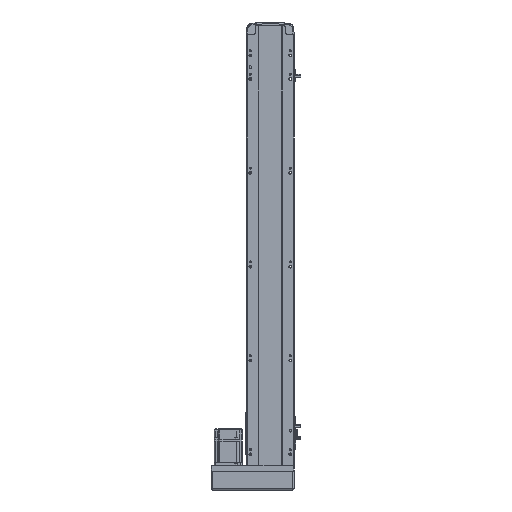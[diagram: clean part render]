
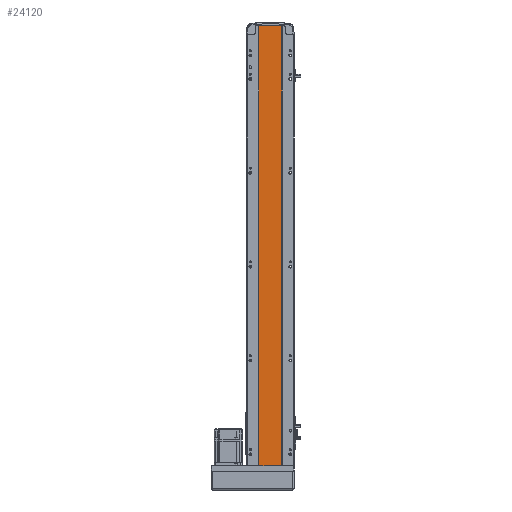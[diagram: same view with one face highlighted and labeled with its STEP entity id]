
A CAD part, front view. The second image highlights one B-rep face of the part: STEP entity #24120.
In plain terms, the highlighted planar face has unit normal (0, -1, 0).
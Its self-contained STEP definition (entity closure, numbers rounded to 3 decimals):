
#4185 = DIRECTION ( 'NONE',  ( 0., 0., -1. ) ) ;
#4926 = VECTOR ( 'NONE', #59722, 1000. ) ;
#6328 = EDGE_CURVE ( 'NONE', #23246, #10656, #15307, .T. ) ;
#7149 = ORIENTED_EDGE ( 'NONE', *, *, #24361, .F. ) ;
#10196 = PLANE ( 'NONE',  #30310 ) ;
#10656 = VERTEX_POINT ( 'NONE', #38209 ) ;
#13247 = VERTEX_POINT ( 'NONE', #38097 ) ;
#14233 = VECTOR ( 'NONE', #51966, 1000. ) ;
#15307 = LINE ( 'NONE', #45533, #21138 ) ;
#16511 = CARTESIAN_POINT ( 'NONE',  ( 24.5, 2., 0. ) ) ;
#17278 = CARTESIAN_POINT ( 'NONE',  ( -24.5, 2., 937. ) ) ;
#19475 = ORIENTED_EDGE ( 'NONE', *, *, #6328, .T. ) ;
#20235 = DIRECTION ( 'NONE',  ( 0., 0., 1. ) ) ;
#20804 = LINE ( 'NONE', #56663, #14233 ) ;
#21138 = VECTOR ( 'NONE', #31404, 1000. ) ;
#22815 = VECTOR ( 'NONE', #4185, 1000. ) ;
#23246 = VERTEX_POINT ( 'NONE', #17278 ) ;
#24120 = ADVANCED_FACE ( 'NONE', ( #43432 ), #10196, .F. ) ;
#24361 = EDGE_CURVE ( 'NONE', #13247, #60205, #45611, .T. ) ;
#27176 = CARTESIAN_POINT ( 'NONE',  ( 24.5, 2., 937. ) ) ;
#30310 = AXIS2_PLACEMENT_3D ( 'NONE', #33605, #43015, #20235 ) ;
#31404 = DIRECTION ( 'NONE',  ( 0., 0., -1. ) ) ;
#31438 = EDGE_CURVE ( 'NONE', #10656, #60205, #20804, .T. ) ;
#33605 = CARTESIAN_POINT ( 'NONE',  ( 0., 2., 937. ) ) ;
#38097 = CARTESIAN_POINT ( 'NONE',  ( 24.5, 2., 937. ) ) ;
#38209 = CARTESIAN_POINT ( 'NONE',  ( -24.5, 2., 0. ) ) ;
#42920 = ORIENTED_EDGE ( 'NONE', *, *, #56088, .F. ) ;
#43015 = DIRECTION ( 'NONE',  ( 0., 1., 0. ) ) ;
#43432 = FACE_OUTER_BOUND ( 'NONE', #58238, .T. ) ;
#45533 = CARTESIAN_POINT ( 'NONE',  ( -24.5, 2., 937. ) ) ;
#45611 = LINE ( 'NONE', #27176, #22815 ) ;
#46012 = CARTESIAN_POINT ( 'NONE',  ( -24.5, 2., 937. ) ) ;
#51966 = DIRECTION ( 'NONE',  ( 1., 0., 0. ) ) ;
#56088 = EDGE_CURVE ( 'NONE', #23246, #13247, #57014, .T. ) ;
#56346 = ORIENTED_EDGE ( 'NONE', *, *, #31438, .T. ) ;
#56663 = CARTESIAN_POINT ( 'NONE',  ( 0., 2., 0. ) ) ;
#57014 = LINE ( 'NONE', #46012, #4926 ) ;
#58238 = EDGE_LOOP ( 'NONE', ( #56346, #7149, #42920, #19475 ) ) ;
#59722 = DIRECTION ( 'NONE',  ( 1., 0., 0. ) ) ;
#60205 = VERTEX_POINT ( 'NONE', #16511 ) ;
